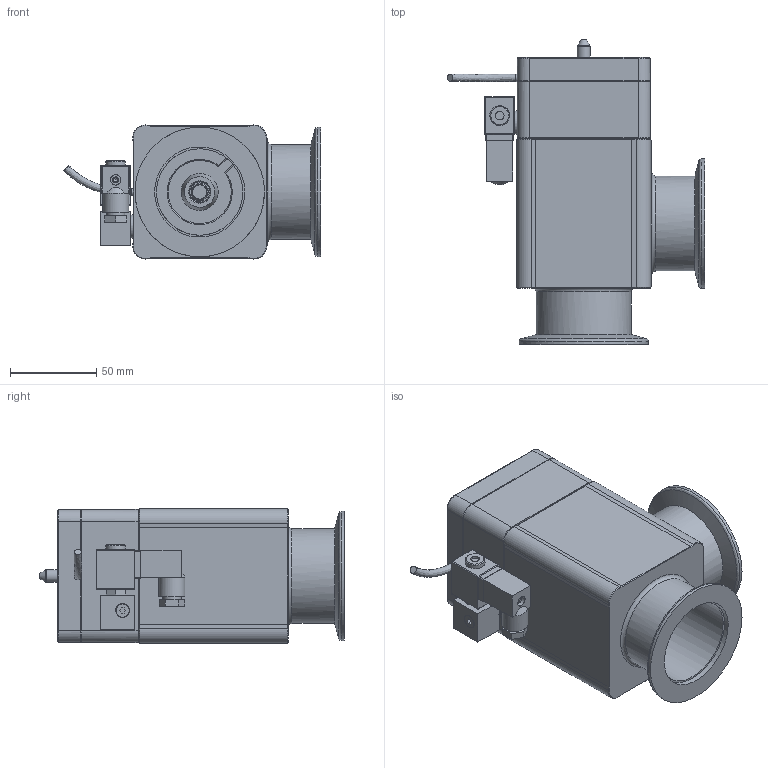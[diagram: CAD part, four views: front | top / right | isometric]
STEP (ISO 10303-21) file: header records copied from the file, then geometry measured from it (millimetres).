
FILE_DESCRIPTION((''),'2;1');
FILE_NAME('O:\MT\MT\Systeme\Cad\Datenexporte\www_vat_ch\245327.stp','2004-06-25T10:07:15',('User'),('SDRC'),'I-DEAS Master Series 9','UNIX','Yes');
FILE_SCHEMA(('CONFIG_CONTROL_DESIGN'));
Length unit declared in the file: millimetre
Assembly tree (18 placements, depth 0):
Bounding box: 148.9 x 176.5 x 77.59 mm (x, y, z)
Volume: 322830.2 mm3; surface area: 167904 mm2
Topology: 22 solids, 25 shells, 784 faces, 1863 edges, 1208 vertices
Faces by surface type: bspline 784
Entity records: 23386 total; most frequent: CARTESIAN_POINT 11719, ORIENTED_EDGE 3188, EDGE_CURVE 1594, VERTEX_POINT 1020, EDGE_LOOP 793, FACE_OUTER_BOUND 674, ADVANCED_FACE 674, QUASI_UNIFORM_CURVE 586
